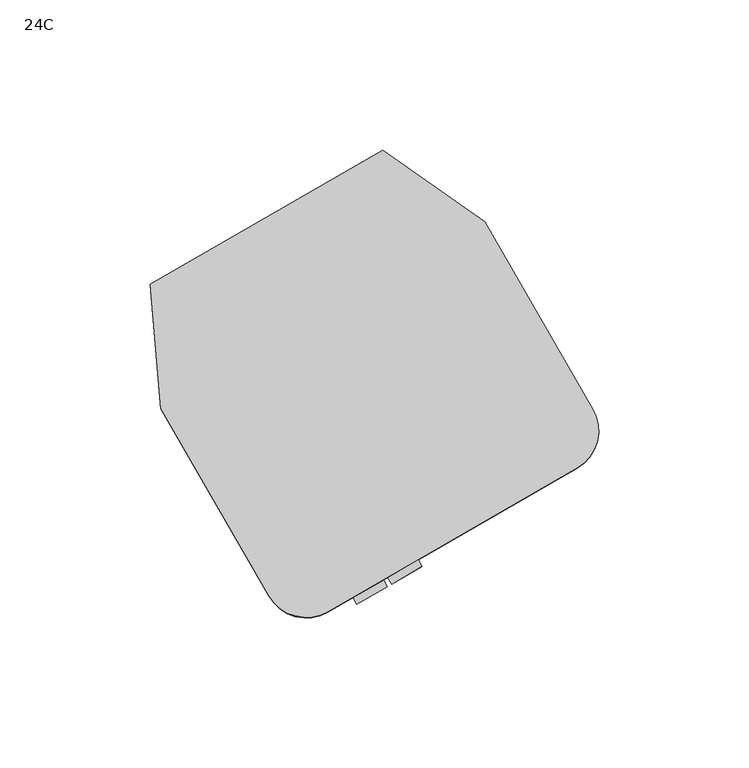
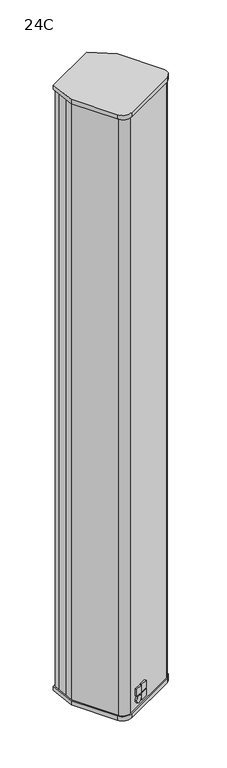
"""IFC4 building model written with IfcOpenShell, lengths in millimetres: proxy geometry, d&b xC-Series 24C Column : 24C."""

import ifcopenshell
import ifcopenshell.guid

model = None  # the IFC model being written
_history = None  # IfcOwnerHistory: only IFC2X3 demands one
_inside = {}  # id of a spatial element -> (the spatial element, [elements in it])
_under = {}  # id of a project, library or spatial element -> (it, [spatial elements below it])
_declared = {}  # id of a project -> (the project, [libraries it declares])
_typed = {}  # id of a type object -> (the type object, [elements of that type])
_made_of = {}  # id of a material, layer set ... -> (it, [elements and type objects made of it])


def new_model(schema):
    """Start an empty IFC model of exactly this schema.

    Asked for "IFC4X3", IfcOpenShell would pick the latest addendum, in which some entities
    have other attributes; the version numbers below select the first issue.
    IFC2X3 requires an IfcOwnerHistory on every rooted entity: one is made here for all.
    """
    global model, _history
    if schema == "IFC4X3":
        model = ifcopenshell.file(schema_version=(4, 3, 0, 0))
    else:
        model = ifcopenshell.file(schema=schema)
    _inside.clear()
    _under.clear()
    _declared.clear()
    _typed.clear()
    _made_of.clear()
    _history = None
    if model.schema == "IFC2X3":
        org = make("IfcOrganization", Name="unknown")
        user = make(
            "IfcPersonAndOrganization",
            ThePerson=make("IfcPerson", FamilyName="unknown"),
            TheOrganization=org,
        )
        app = make(
            "IfcApplication",
            ApplicationDeveloper=org,
            Version="unknown",
            ApplicationFullName="unknown",
            ApplicationIdentifier="unknown",
        )
        _history = make(
            "IfcOwnerHistory",
            OwningUser=user,
            OwningApplication=app,
            ChangeAction="ADDED",
            CreationDate=0,
        )
    return model


def make(cls, **values):
    """One entity of the class cls with the attributes given. An attribute that is None is left unset."""
    return model.create_entity(
        cls, **{name: value for name, value in values.items() if value is not None}
    )


def rooted(cls, **values):
    """An entity with a GlobalId (a new one), such as an element, a storey or a relation."""
    return make(cls, GlobalId=ifcopenshell.guid.new(), OwnerHistory=_history, **values)


def si_unit(unit_type, name, prefix=None):
    """IfcSIUnit, for example si_unit("LENGTHUNIT", "METRE", prefix="MILLI")."""
    return make("IfcSIUnit", UnitType=unit_type, Prefix=prefix, Name=name)


def assignment(units):
    """IfcUnitAssignment: the units of a project."""
    return None if units is None else make("IfcUnitAssignment", Units=units)


def point(xyz):
    """IfcCartesianPoint."""
    return None if xyz is None else make("IfcCartesianPoint", Coordinates=xyz)


def direction(xyz):
    """IfcDirection."""
    return None if xyz is None else make("IfcDirection", DirectionRatios=xyz)


def frame(location, z_axis=None, x_axis=None):
    """IfcAxis2Placement3D, a coordinate frame: its origin and axes. An axis left out is left unset."""
    return make(
        "IfcAxis2Placement3D",
        Location=point(location),
        Axis=direction(z_axis),
        RefDirection=direction(x_axis),
    )


def frame_2d(location, x_axis=None):
    """IfcAxis2Placement2D, a coordinate frame in the plane: its origin and x axis."""
    return make(
        "IfcAxis2Placement2D", Location=point(location), RefDirection=direction(x_axis)
    )


def origin():
    """The frame at (0, 0, 0) with its axes left unset."""
    return frame((0.0, 0.0, 0.0))


def place(relative_to, where):
    """IfcLocalPlacement: puts the frame where relative to a parent placement (None: the world)."""
    return make(
        "IfcLocalPlacement", PlacementRelTo=relative_to, RelativePlacement=where
    )


def context(
    kind, dimensions, precision=None, world=None, true_north=None, identifier=None
):
    """IfcGeometricRepresentationContext, for example the 3D "Model" context."""
    return make(
        "IfcGeometricRepresentationContext",
        ContextIdentifier=identifier,
        ContextType=kind,
        CoordinateSpaceDimension=dimensions,
        Precision=precision,
        WorldCoordinateSystem=world,
        TrueNorth=true_north,
    )


def project(units=None, contexts=None):
    """IfcProject with its units and contexts."""
    return rooted(
        "IfcProject",
        Name="project",
        RepresentationContexts=contexts,
        UnitsInContext=assignment(units),
    )


def spatial(cls, under=None, at=None, **own):
    """A site, building, storey or space (cls), placed at a placement, below another one or the project."""
    s = rooted(cls, ObjectPlacement=at, **own)
    if under is not None:
        _under.setdefault(under.id(), (under, []))[1].append(s)
    return s


def polyline(points):
    """IfcPolyline through the points."""
    return make("IfcPolyline", Points=[point(p) for p in points])


def circle_curve(where, radius):
    """IfcCircle in the frame where."""
    return make("IfcCircle", Position=where, Radius=radius)


def trimmed(basis, trim1, trim2, sense, master):
    """IfcTrimmedCurve: the piece of a basis curve between two trims."""
    return make(
        "IfcTrimmedCurve",
        BasisCurve=basis,
        Trim1=trim1,
        Trim2=trim2,
        SenseAgreement=sense,
        MasterRepresentation=master,
    )


def segment(curve, same_sense, transition):
    """IfcCompositeCurveSegment."""
    return make(
        "IfcCompositeCurveSegment",
        Transition=transition,
        SameSense=same_sense,
        ParentCurve=curve,
    )


def composite_curve(segments, self_intersect=None):
    """IfcCompositeCurve: segments joined end to end."""
    return make("IfcCompositeCurve", Segments=segments, SelfIntersect=self_intersect)


def outline(outer, holes=None, kind="AREA"):
    """IfcArbitraryClosedProfileDef: a profile drawn as a closed curve; with holes, ...WithVoids."""
    if holes is None:
        return make("IfcArbitraryClosedProfileDef", ProfileType=kind, OuterCurve=outer)
    return make(
        "IfcArbitraryProfileDefWithVoids",
        ProfileType=kind,
        OuterCurve=outer,
        InnerCurves=holes,
    )


def extrude(swept, where, along, depth):
    """IfcExtrudedAreaSolid: the profile swept, set in the frame where, extruded along a direction by depth."""
    return make(
        "IfcExtrudedAreaSolid",
        SweptArea=swept,
        Position=where,
        ExtrudedDirection=direction(along),
        Depth=depth,
    )


def shape(context_of_items, identifier, shape_type, items):
    """IfcShapeRepresentation: the items that make up one representation, for example the "Body"."""
    return make(
        "IfcShapeRepresentation",
        ContextOfItems=context_of_items,
        RepresentationIdentifier=identifier,
        RepresentationType=shape_type,
        Items=items,
    )


def source(mapping_origin, context_of_items, identifier, shape_type, items):
    """IfcRepresentationMap: a shape defined once, which mapped items show again and again."""
    return make(
        "IfcRepresentationMap",
        MappingOrigin=mapping_origin,
        MappedRepresentation=shape(context_of_items, identifier, shape_type, items),
    )


def transform(
    local_origin,
    x_axis=None,
    y_axis=None,
    z_axis=None,
    scale=None,
    scale2=None,
    scale3=None,
    uniform=True,
):
    """IfcCartesianTransformationOperator3D, or its non-uniform kind. x_axis, y_axis, z_axis: its Axis1, 2, 3."""
    if uniform:
        return make(
            "IfcCartesianTransformationOperator3D",
            Axis1=direction(x_axis),
            Axis2=direction(y_axis),
            LocalOrigin=point(local_origin),
            Scale=scale,
            Axis3=direction(z_axis),
        )
    return make(
        "IfcCartesianTransformationOperator3DnonUniform",
        Axis1=direction(x_axis),
        Axis2=direction(y_axis),
        LocalOrigin=point(local_origin),
        Scale=scale,
        Axis3=direction(z_axis),
        Scale2=scale2,
        Scale3=scale3,
    )


def mapped(mapping_source, mapping_target):
    """IfcMappedItem: shows the shape of a source again, moved by a transform."""
    return make(
        "IfcMappedItem", MappingSource=mapping_source, MappingTarget=mapping_target
    )


def made_of(thing, what):
    """Note that an element or type object is made of a material, layer set ...; save() writes the relation."""
    if what is not None:
        _made_of.setdefault(what.id(), (what, []))[1].append(thing)
    return thing


def element(
    cls,
    number,
    at=None,
    inside=None,
    cuts=None,
    type_object=None,
    material=None,
    context=None,
    identifier="Body",
    shape_type=None,
    held_by="IfcProductDefinitionShape",
    body=None,
    shapes=None,
    **own,
):
    """One element of the class cls, such as IfcWall. Its Tag is "e" and its number.

    at: its placement. inside: the storey or other place that contains it. cuts: it is an
    opening in that element (IfcRelVoidsElement). A single representation is given by context,
    identifier, shape_type and body (its items); several are given by shapes. held_by: the class
    of the entity that holds the representations. save() writes the other relations.
    """
    e = rooted(cls, Tag="e%d" % number, ObjectPlacement=at, **own)
    if body is not None:
        shapes = [shape(context, identifier, shape_type, body)]
    if shapes is not None:
        e.Representation = make(held_by, Representations=shapes)
    if inside is not None:
        _inside.setdefault(inside.id(), (inside, []))[1].append(e)
    if cuts is not None:
        rooted(
            "IfcRelVoidsElement", RelatingBuildingElement=cuts, RelatedOpeningElement=e
        )
    if type_object is not None:
        _typed.setdefault(type_object.id(), (type_object, []))[1].append(e)
    return made_of(e, material)


def aggregate(whole, parts):
    """IfcRelAggregates: a whole, such as a stair, and the parts it consists of."""
    return rooted("IfcRelAggregates", RelatingObject=whole, RelatedObjects=parts)


def save(model, path):
    """Write the relations noted so far, then the file.

    IfcRelAggregates (storeys below a building ...), IfcRelContainedInSpatialStructure (elements
    in a storey), IfcRelDefinesByType, IfcRelAssociatesMaterial and IfcRelDeclares: one each for
    every whole, place, type object, material and project.
    """
    for whole, parts in _under.values():
        aggregate(whole, parts)
    for where, things in _inside.values():
        rooted(
            "IfcRelContainedInSpatialStructure",
            RelatedElements=things,
            RelatingStructure=where,
        )
    for kind, things in _typed.values():
        rooted("IfcRelDefinesByType", RelatedObjects=things, RelatingType=kind)
    for what, things in _made_of.values():
        rooted("IfcRelAssociatesMaterial", RelatedObjects=things, RelatingMaterial=what)
    for by, libraries in _declared.values():
        rooted("IfcRelDeclares", RelatingContext=by, RelatedDefinitions=libraries)
    model.write(path)


def plane_surface(at):
    """IfcPlane: the flat surface through the origin of the frame at, square to its z axis."""
    return make("IfcPlane", Position=at)


def cylinder_surface(at, radius):
    """IfcCylindricalSurface: all points at the distance radius from the z axis of the frame at."""
    return make("IfcCylindricalSurface", Position=at, Radius=radius)


def revolved_surface(curve, axis_point, axis_direction):
    """IfcSurfaceOfRevolution: the curve turned about the line through axis_point along axis_direction."""
    return make(
        "IfcSurfaceOfRevolution",
        SweptCurve=make("IfcArbitraryOpenProfileDef", ProfileType="CURVE", Curve=curve),
        AxisPosition=make("IfcAxis1Placement", Location=point(axis_point), Axis=direction(axis_direction)),
    )


def advanced_brep(points, edges, surfaces, faces):
    """IfcAdvancedBrep: a solid bounded by faces that lie on surfaces and meet in shared edges.

    An edge is (start, end): straight between two places in points (the first is 0);
    or (start, end, curve); or (start, end, curve, False) where it runs against its curve.
    A face is (place in surfaces, loops), or (place, loops, False) where it looks against
    its surface's normal. A loop lists edges by number (the first is 1), with a minus sign
    where the edge is run from its end to its start. The first loop is the outer one.
    """
    corners = [point(p) for p in points]
    vertices = [make("IfcVertexPoint", VertexGeometry=c) for c in corners]
    made = []
    for start, end, *more in edges:
        made.append(
            make(
                "IfcEdgeCurve",
                EdgeStart=vertices[start],
                EdgeEnd=vertices[end],
                EdgeGeometry=more[0] if more else make("IfcPolyline", Points=[corners[start], corners[end]]),
                SameSense=more[1] if len(more) > 1 else True,
            )
        )
    hull = []
    for where, loops, *sense in faces:
        bounds = []
        for j, loop in enumerate(loops):
            ring = [make("IfcOrientedEdge", EdgeElement=made[abs(k) - 1], Orientation=k > 0) for k in loop]
            bounds.append(
                make(
                    "IfcFaceOuterBound" if j == 0 else "IfcFaceBound",
                    Bound=make("IfcEdgeLoop", EdgeList=ring),
                    Orientation=True,
                )
            )
        hull.append(make("IfcAdvancedFace", Bounds=bounds, FaceSurface=surfaces[where], SameSense=sense[0] if sense else True))
    return make("IfcAdvancedBrep", Outer=make("IfcClosedShell", CfsFaces=hull))


def proxy_24c_c8f8758b(model_context):
    return source(origin(), model_context, "Body", "SolidModel", [
        extrude(outline(polyline([(14.3922526, 66.1949436), (15.8261937, 68.2428237), (28.1021442, 59.6471107), (26.6682031, 57.5992305), (14.3922526, 66.1949436)])), frame((0.0, 0.0, -493.0), z_axis=(0.0, 0.0, 1.0), x_axis=(1.0, 0.0, 0.0)), (0.0, 0.0, 1.0), 986.0),
        extrude(outline(polyline([(-64.5226291, 20.6334154), (-63.2164984, 5.7042739), (-65.7069852, 5.4863846), (-67.0131158, 20.4155261), (-64.5226291, 20.6334154)])), frame((0.0, 0.0, -493.0), z_axis=(0.0, 0.0, 1.0), x_axis=(1.0, 0.0, 0.0)), (0.0, 0.0, 1.0), 986.0),
        advanced_brep(
        [(-57.8811142, 36.1530306, 493.0), (-67.8846732, 30.3774731, 493.0), (-67.0131158, 20.4155261, 493.0), (-64.5226291, 20.6334154, 493.0), (-63.2164984, 5.7042739, 493.0), (-65.7069852, 5.4863846, 493.0), (-64.399649, -9.4565359, 493.0), (-28.4134709, -71.7864248, 493.0), (-11.6279311, -76.2840966, 493.0), (71.8779311, -28.0719646, 493.0), (76.3756029, -11.2864248, 493.0), (40.3894248, 51.0434641, 493.0), (28.1021442, 59.6471107, 493.0), (26.6682031, 57.5992305, 493.0), (14.3922526, 66.1949436, 493.0), (15.8261937, 68.2428237, 493.0), (7.6346732, 73.9785881, 493.0), (-2.3688858, 68.2030306, 493.0), (-1.2688854, 66.297774, 493.0), (2.3684216, 68.3977742, 493.0), (3.7456541, 66.0123374, 493.0), (2.2648858, 60.486035, 493.0), (-5.0135963, 56.2838014, 493.0), (-10.5459982, 57.766204, 493.0), (-11.9209982, 60.1477739, 493.0), (-8.2836912, 62.247774, 493.0), (-9.3836916, 64.1530306, 493.0), (-17.1346189, 59.6780306, 493.0), (-12.1346189, 51.0177765, 493.0), (-38.1153811, 36.0177765, 493.0), (-43.1153811, 44.6780306, 493.0), (-50.8663084, 40.2030306, 493.0), (-49.766308, 38.297774, 493.0), (-46.1290011, 40.3977742, 493.0), (-44.7540011, 38.0162043, 493.0), (-46.2364037, 32.4838025, 493.0), (-53.5148858, 28.2815688, 493.0), (-59.0411882, 29.7623371, 493.0), (-60.4184208, 32.1477739, 493.0), (-56.7811138, 34.247774, 493.0), (-57.8811142, 36.1530306, -493.0), (-56.7811138, 34.247774, -493.0), (-60.4184208, 32.1477739, -493.0), (-59.0411882, 29.7623371, -493.0), (-53.5148858, 28.2815688, -493.0), (-46.2364037, 32.4838025, -493.0), (-44.7540011, 38.0162043, -493.0), (-46.1290011, 40.3977742, -493.0), (-49.766308, 38.297774, -493.0), (-50.8663084, 40.2030306, -493.0), (-9.3836916, 64.1530306, -493.0), (-8.2836912, 62.247774, -493.0), (-11.9209982, 60.1477739, -493.0), (-10.5459982, 57.766204, -493.0), (-5.0135963, 56.2838014, -493.0), (2.2648858, 60.486035, -493.0), (3.7456541, 66.0123374, -493.0), (2.3684216, 68.3977742, -493.0), (-1.2688854, 66.297774, -493.0), (-2.3688858, 68.2030306, -493.0), (7.6346732, 73.9785881, -493.0), (15.8261937, 68.2428237, -493.0), (14.3922526, 66.1949436, -493.0), (26.6682031, 57.5992305, -493.0), (28.1021442, 59.6471107, -493.0), (40.3894248, 51.0434641, -493.0), (76.3756029, -11.2864248, -493.0), (71.8779311, -28.0719646, -493.0), (-11.6279311, -76.2840966, -493.0), (-28.4134709, -71.7864248, -493.0), (-64.399649, -9.4565359, -493.0), (-65.7069852, 5.4863846, -493.0), (-63.2164984, 5.7042739, -493.0), (-64.5226291, 20.6334154, -493.0), (-67.0131158, 20.4155261, -493.0), (-67.8846732, 30.3774731, -493.0), (-43.1153811, 44.6780306, 461.5), (-40.9503175, 45.9280306, 459.0), (-19.2996825, 58.4280306, 459.0), (-17.1346189, 59.6780306, 461.5), (-33.0478357, 50.4905306, -263.5), (-33.0478357, 50.4905306, -365.0), (-27.2021643, 53.8655306, -365.0), (-27.2021643, 53.8655306, -263.5), (-12.1346189, 51.0177765, 461.5), (-14.2996825, 49.7677765, 459.0), (-35.9503175, 37.2677765, 459.0), (-38.1153811, 36.0177765, 461.5), (-31.4228357, 47.675948, -365.0), (-31.4228357, 47.675948, -263.5), (-25.5771643, 51.050948, -263.5), (-25.5771643, 51.050948, -365.0)],
        [
            (0, 1),
            (1, 2),
            (2, 3),
            (3, 4),
            (4, 5),
            (5, 6),
            (6, 7),
            (7, 8, circle_curve(frame((-17.7718651, -65.6424908, 493.0), z_axis=(0.0, 0.0, 1.0), x_axis=(-0.8660254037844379, -0.5000000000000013, 0.0)), 12.287868)),
            (8, 9),
            (9, 10, circle_curve(frame((65.7339971, -17.4303587, 493.0), z_axis=(0.0, 0.0, 1.0), x_axis=(-0.8660254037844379, -0.5000000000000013, 0.0)), 12.287868)),
            (10, 11),
            (11, 12),
            (12, 13),
            (13, 14),
            (14, 15),
            (15, 16),
            (16, 17),
            (17, 18),
            (18, 19),
            (19, 20),
            (20, 21),
            (21, 22),
            (22, 23),
            (23, 24),
            (24, 25),
            (25, 26),
            (26, 27),
            (27, 28),
            (28, 29),
            (29, 30),
            (30, 31),
            (31, 32),
            (32, 33),
            (33, 34),
            (34, 35),
            (35, 36),
            (36, 37),
            (37, 38),
            (38, 39),
            (39, 0),
            (40, 41),
            (41, 42),
            (42, 43),
            (43, 44),
            (44, 45),
            (45, 46),
            (46, 47),
            (47, 48),
            (48, 49),
            (49, 50),
            (50, 51),
            (51, 52),
            (52, 53),
            (53, 54),
            (54, 55),
            (55, 56),
            (56, 57),
            (57, 58),
            (58, 59),
            (59, 60),
            (60, 61),
            (61, 62),
            (62, 63),
            (63, 64),
            (64, 65),
            (65, 66),
            (66, 67, circle_curve(frame((65.7339971, -17.4303587, -493.0), z_axis=(0.0, 0.0, -1.0), x_axis=(-0.8660254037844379, -0.5000000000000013, 0.0)), 12.287868)),
            (67, 68),
            (68, 69, circle_curve(frame((-17.7718651, -65.6424908, -493.0), z_axis=(0.0, 0.0, -1.0), x_axis=(-0.8660254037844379, -0.5000000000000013, 0.0)), 12.287868)),
            (69, 70),
            (70, 71),
            (71, 72),
            (72, 73),
            (73, 74),
            (74, 75),
            (75, 40),
            (0, 40),
            (75, 1),
            (6, 70),
            (69, 7),
            (68, 8),
            (67, 9),
            (66, 10),
            (65, 11),
            (64, 12),
            (16, 60),
            (59, 17),
            (58, 18),
            (57, 19),
            (56, 20),
            (55, 21),
            (54, 22),
            (53, 23),
            (52, 24),
            (51, 25),
            (50, 26),
            (49, 31),
            (30, 76),
            (76, 77, circle_curve(frame((-40.9503175, 45.9280306, 461.5), z_axis=(0.49999999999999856, -0.8660254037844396, 0.0), x_axis=(-0.8660254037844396, -0.49999999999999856, 0.0)), 2.5)),
            (77, 78),
            (78, 79, circle_curve(frame((-19.2996825, 58.4280306, 461.5), z_axis=(0.49999999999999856, -0.8660254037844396, 0.0), x_axis=(-0.8660254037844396, -0.49999999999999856, 0.0)), 2.5)),
            (79, 27),
            (80, 81),
            (81, 82, circle_curve(frame((-30.125, 52.1780306, -365.0), z_axis=(0.49999999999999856, -0.8660254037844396, 0.0), x_axis=(-0.8660254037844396, -0.49999999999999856, 0.0)), 3.375)),
            (82, 83),
            (83, 80, circle_curve(frame((-30.125, 52.1780306, -263.5), z_axis=(0.49999999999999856, -0.8660254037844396, 0.0), x_axis=(-0.8660254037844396, -0.49999999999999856, 0.0)), 3.375)),
            (48, 32),
            (47, 33),
            (46, 34),
            (45, 35),
            (44, 36),
            (43, 37),
            (42, 38),
            (41, 39),
            (84, 85, circle_curve(frame((-14.2996825, 49.7677765, 461.5), z_axis=(-0.49999999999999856, 0.8660254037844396, 0.0), x_axis=(-0.8660254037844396, -0.49999999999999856, 0.0)), 2.5)),
            (85, 86),
            (86, 87, circle_curve(frame((-35.9503175, 37.2677765, 461.5), z_axis=(-0.49999999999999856, 0.8660254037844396, 0.0), x_axis=(-0.8660254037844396, -0.49999999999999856, 0.0)), 2.5)),
            (87, 29),
            (28, 84),
            (84, 79),
            (78, 85),
            (77, 86),
            (76, 87),
            (88, 89),
            (89, 90, circle_curve(frame((-28.5, 49.363448, -263.5), z_axis=(-0.49999999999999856, 0.8660254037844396, 0.0), x_axis=(-0.8660254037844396, -0.49999999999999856, 0.0)), 3.375)),
            (90, 91),
            (91, 88, circle_curve(frame((-28.5, 49.363448, -365.0), z_axis=(-0.49999999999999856, 0.8660254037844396, 0.0), x_axis=(-0.8660254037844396, -0.49999999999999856, 0.0)), 3.375)),
            (88, 81),
            (80, 89),
            (83, 90),
            (82, 91),
            (63, 13),
            (62, 14),
            (61, 15),
            (74, 2),
            (73, 3),
            (72, 4),
            (71, 5),
        ],
        [
            plane_surface(frame((-66.5053757, 31.1738109, 493.0), z_axis=(0.0, 0.0, 1.0), x_axis=(-0.8660254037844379, -0.5000000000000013, 0.0))),
            plane_surface(frame((-66.5053757, 31.1738109, -493.0), z_axis=(0.0, 0.0, -1.0), x_axis=(0.8660254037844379, 0.5000000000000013, 0.0))),
            plane_surface(frame((-57.8811142, 36.1530306, 493.0), z_axis=(-0.5000000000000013, 0.8660254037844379, 0.0), x_axis=(0.0, 0.0, -1.0))),
            plane_surface(frame((-64.399649, -9.4565359, 493.0), z_axis=(-0.8660254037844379, -0.5000000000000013, 0.0), x_axis=(0.0, 0.0, -1.0))),
            cylinder_surface(frame((-17.7718651, -65.6424908, -493.0), z_axis=(0.0, 0.0, 1.0), x_axis=(-0.8660254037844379, -0.5000000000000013, 0.0)), 12.287868),
            plane_surface(frame((-11.6279311, -76.2840966, 493.0), z_axis=(0.5000000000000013, -0.8660254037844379, 0.0), x_axis=(0.0, 0.0, -1.0))),
            cylinder_surface(frame((65.7339971, -17.4303587, -493.0), z_axis=(0.0, 0.0, 1.0), x_axis=(-0.8660254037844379, -0.5000000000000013, 0.0)), 12.287868),
            plane_surface(frame((76.3756029, -11.2864248, 493.0), z_axis=(0.8660254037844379, 0.5000000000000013, 0.0), x_axis=(0.0, 0.0, -1.0))),
            plane_surface(frame((40.3894248, 51.0434641, 493.0), z_axis=(0.5735764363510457, 0.8191520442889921, 0.0), x_axis=(0.0, 0.0, -1.0))),
            plane_surface(frame((7.6346732, 73.9785881, 493.0), z_axis=(-0.5000000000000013, 0.8660254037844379, 0.0), x_axis=(0.0, 0.0, -1.0))),
            plane_surface(frame((-2.3688858, 68.2030306, 493.0), z_axis=(-0.8660254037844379, -0.5000000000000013, 0.0), x_axis=(0.0, 0.0, -1.0))),
            plane_surface(frame((-1.2688854, 66.297774, 493.0), z_axis=(0.5000000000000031, -0.8660254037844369, 0.0), x_axis=(0.0, 0.0, -1.0))),
            plane_surface(frame((2.3684216, 68.3977742, 493.0), z_axis=(-0.8660254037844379, -0.5000000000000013, 0.0), x_axis=(0.0, 0.0, -1.0))),
            plane_surface(frame((3.7456541, 66.0123374, 493.0), z_axis=(-0.9659258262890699, 0.25881904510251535, 0.0), x_axis=(0.0, 0.0, -1.0))),
            plane_surface(frame((2.2648858, 60.486035, 493.0), z_axis=(-0.5000000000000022, 0.8660254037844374, 0.0), x_axis=(0.0, 0.0, -1.0))),
            plane_surface(frame((-5.0135963, 56.2838014, 493.0), z_axis=(0.2588190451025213, 0.9659258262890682, 0.0), x_axis=(0.0, 0.0, -1.0))),
            plane_surface(frame((-10.5459982, 57.766204, 493.0), z_axis=(0.8660254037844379, 0.5000000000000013, 0.0), x_axis=(0.0, 0.0, -1.0))),
            plane_surface(frame((-11.9209982, 60.1477739, 493.0), z_axis=(0.5000000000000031, -0.8660254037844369, 0.0), x_axis=(0.0, 0.0, -1.0))),
            plane_surface(frame((-8.2836912, 62.247774, 493.0), z_axis=(0.8660254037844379, 0.5000000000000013, 0.0), x_axis=(0.0, 0.0, -1.0))),
            plane_surface(frame((-9.3836916, 64.1530306, 493.0), z_axis=(-0.5000000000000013, 0.8660254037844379, 0.0), x_axis=(0.0, 0.0, -1.0))),
            plane_surface(frame((-50.8663084, 40.2030306, 493.0), z_axis=(-0.8660254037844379, -0.5000000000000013, 0.0), x_axis=(0.0, 0.0, -1.0))),
            plane_surface(frame((-49.766308, 38.297774, 493.0), z_axis=(0.4999999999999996, -0.8660254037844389, 0.0), x_axis=(0.0, 0.0, -1.0))),
            plane_surface(frame((-46.1290011, 40.3977742, 493.0), z_axis=(-0.8660254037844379, -0.5000000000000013, 0.0), x_axis=(0.0, 0.0, -1.0))),
            plane_surface(frame((-44.7540011, 38.0162043, 493.0), z_axis=(-0.9659258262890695, 0.25881904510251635, 0.0), x_axis=(0.0, 0.0, -1.0))),
            plane_surface(frame((-46.2364037, 32.4838025, 493.0), z_axis=(-0.4999999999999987, 0.8660254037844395, 0.0), x_axis=(0.0, 0.0, -1.0))),
            plane_surface(frame((-53.5148858, 28.2815688, 493.0), z_axis=(0.2588190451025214, 0.9659258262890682, 0.0), x_axis=(0.0, 0.0, -1.0))),
            plane_surface(frame((-59.0411882, 29.7623371, 493.0), z_axis=(0.8660254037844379, 0.5000000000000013, 0.0), x_axis=(0.0, 0.0, -1.0))),
            plane_surface(frame((-60.4184208, 32.1477739, 493.0), z_axis=(0.4999999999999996, -0.8660254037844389, 0.0), x_axis=(0.0, 0.0, -1.0))),
            plane_surface(frame((-56.7811138, 34.247774, 493.0), z_axis=(0.8660254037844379, 0.5000000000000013, 0.0), x_axis=(0.0, 0.0, -1.0))),
            plane_surface(frame((-16.464746, 48.5177765, 461.5), z_axis=(-0.49999999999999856, 0.8660254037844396, 0.0), x_axis=(0.0, 0.0, -1.0))),
            revolved_surface(polyline([(-21.464746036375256, 57.178030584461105, 461.5), (-16.464745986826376, 48.5177764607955, 461.5)]), (-14.2996825, 49.7677765, 461.5), (-0.49999999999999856, 0.8660254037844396, 0.0)),
            plane_surface(frame((-20.1746825, 59.943575, 459.0), z_axis=(0.0, 0.0, 1.0), x_axis=(0.49999999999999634, -0.8660254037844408, 0.0))),
            revolved_surface(polyline([(-43.11538105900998, 44.6780306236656, 461.5), (-38.115381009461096, 36.0177765, 461.5)]), (-35.9503175, 37.2677765, 461.5), (-0.49999999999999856, 0.8660254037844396, 0.0)),
            plane_surface(frame((-43.9903811, 46.193575, 461.5), z_axis=(0.8660254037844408, 0.49999999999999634, 0.0), x_axis=(0.49999999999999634, -0.8660254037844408, 0.0))),
            plane_surface(frame((-18.0096189, 61.193575, 493.0), z_axis=(-0.8660254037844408, -0.49999999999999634, 0.0), x_axis=(0.49999999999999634, -0.8660254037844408, 0.0))),
            plane_surface(frame((-31.4228357, 47.675948, -286.8896769), z_axis=(-0.49999999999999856, 0.8660254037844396, 0.0), x_axis=(0.0, 0.0, -1.0))),
            plane_surface(frame((-33.9228357, 52.006075, -365.0), z_axis=(0.8660254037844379, 0.5000000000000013, 0.0), x_axis=(0.5000000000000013, -0.8660254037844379, 0.0))),
            revolved_surface(polyline([(-33.047835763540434, 50.49053060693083, -263.5), (-31.42283572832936, 47.675947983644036, -263.5)]), (-28.5, 49.363448, -263.5), (-0.49999999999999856, 0.8660254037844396, 0.0)),
            plane_surface(frame((-28.0771643, 55.381075, -263.5), z_axis=(-0.8660254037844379, -0.5000000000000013, 0.0), x_axis=(0.5000000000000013, -0.8660254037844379, 0.0))),
            revolved_surface(polyline([(-33.047835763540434, 50.49053060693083, -365.0), (-31.42283572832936, 47.675947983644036, -365.0)]), (-28.5, 49.363448, -365.0), (-0.49999999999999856, 0.8660254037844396, 0.0)),
            plane_surface(frame((28.1021442, 59.6471107, 493.0), z_axis=(-0.819152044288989, 0.5735764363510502, 0.0), x_axis=(0.0, 0.0, -1.0))),
            plane_surface(frame((26.6682031, 57.5992305, 493.0), z_axis=(0.5735764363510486, 0.8191520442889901, 0.0), x_axis=(0.0, 0.0, -1.0))),
            plane_surface(frame((14.3922526, 66.1949436, 493.0), z_axis=(0.8191520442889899, -0.5735764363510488, 0.0), x_axis=(0.0, 0.0, -1.0))),
            plane_surface(frame((15.8261937, 68.2428237, 493.0), z_axis=(0.5735764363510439, 0.8191520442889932, 0.0), x_axis=(0.0, 0.0, -1.0))),
            plane_surface(frame((-67.8846732, 30.3774731, 493.0), z_axis=(-0.9961946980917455, -0.08715574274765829, 0.0), x_axis=(0.0, 0.0, -1.0))),
            plane_surface(frame((-67.0131158, 20.4155261, 493.0), z_axis=(0.08715574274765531, -0.9961946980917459, 0.0), x_axis=(0.0, 0.0, -1.0))),
            plane_surface(frame((-64.5226291, 20.6334154, 493.0), z_axis=(-0.996194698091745, -0.08715574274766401, 0.0), x_axis=(0.0, 0.0, -1.0))),
            plane_surface(frame((-63.2164984, 5.7042739, 493.0), z_axis=(-0.08715574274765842, 0.9961946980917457, 0.0), x_axis=(0.0, 0.0, -1.0))),
            plane_surface(frame((-65.7069852, 5.4863846, 493.0), z_axis=(-0.9961946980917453, -0.08715574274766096, 0.0), x_axis=(0.0, 0.0, -1.0))),
        ],
        [
            (0, [[1, 2, 3, 4, 5, 6, 7, 8, 9, 10, 11, 12, 13, 14, 15, 16, 17, 18, 19, 20, 21, 22, 23, 24, 25, 26, 27, 28, 29, 30, 31, 32, 33, 34, 35, 36, 37, 38, 39, 40]]),
            (1, [[41, 42, 43, 44, 45, 46, 47, 48, 49, 50, 51, 52, 53, 54, 55, 56, 57, 58, 59, 60, 61, 62, 63, 64, 65, 66, 67, 68, 69, 70, 71, 72, 73, 74, 75, 76]]),
            (2, [[-1, 77, -76, 78]]),
            (3, [[-7, 79, -70, 80]]),
            (4, [[-8, -80, -69, 81]]),
            (5, [[-9, -81, -68, 82]]),
            (6, [[-10, -82, -67, 83]]),
            (7, [[-11, -83, -66, 84]]),
            (8, [[-12, -84, -65, 85]]),
            (9, [[-17, 86, -60, 87]]),
            (10, [[-18, -87, -59, 88]]),
            (11, [[-19, -88, -58, 89]]),
            (12, [[-20, -89, -57, 90]]),
            (13, [[-21, -90, -56, 91]]),
            (14, [[-22, -91, -55, 92]]),
            (15, [[-23, -92, -54, 93]]),
            (16, [[-24, -93, -53, 94]]),
            (17, [[-25, -94, -52, 95]]),
            (18, [[-26, -95, -51, 96]]),
            (19, [[-50, 97, -31, 98, 99, 100, 101, 102, -27, -96], [103, 104, 105, 106]]),
            (20, [[-32, -97, -49, 107]]),
            (21, [[-33, -107, -48, 108]]),
            (22, [[-34, -108, -47, 109]]),
            (23, [[-35, -109, -46, 110]]),
            (24, [[-36, -110, -45, 111]]),
            (25, [[-37, -111, -44, 112]]),
            (26, [[-38, -112, -43, 113]]),
            (27, [[-39, -113, -42, 114]]),
            (28, [[-40, -114, -41, -77]]),
            (29, [[115, 116, 117, 118, -29, 119]]),
            (30, [[-115, 120, -101, 121]]),
            (31, [[-116, -121, -100, 122]]),
            (32, [[-117, -122, -99, 123]]),
            (33, [[-118, -123, -98, -30]]),
            (34, [[-119, -28, -102, -120]]),
            (35, [[124, 125, 126, 127]]),
            (36, [[-124, 128, -103, 129]]),
            (37, [[-125, -129, -106, 130]]),
            (38, [[-126, -130, -105, 131]]),
            (39, [[-127, -131, -104, -128]]),
            (40, [[-13, -85, -64, 132]]),
            (41, [[-14, -132, -63, 133]]),
            (42, [[-15, -133, -62, 134]]),
            (43, [[-16, -134, -61, -86]]),
            (44, [[-2, -78, -75, 135]]),
            (45, [[-3, -135, -74, 136]]),
            (46, [[-4, -136, -73, 137]]),
            (47, [[-5, -137, -72, 138]]),
            (48, [[-6, -138, -71, -79]]),
        ],
    ),
        extrude(outline(polyline([(-2.0926771, -72.7996411), (8.0109526, -66.9663077), (9.2609526, -69.1313712), (-0.8426771, -74.9647046), (-2.0926771, -72.7996411)])), frame((0.0, 0.0, -469.6666667), z_axis=(0.0, 0.0, 1.0), x_axis=(1.0, 0.0, 0.0)), (0.0, 0.0, 1.0), 11.6666667),
        extrude(outline(polyline([(9.4543283, -66.1329744), (19.557958, -60.2996411), (20.807958, -62.4647046), (10.7043283, -68.2980379), (9.4543283, -66.1329744)])), frame((0.0, 0.0, -469.6666667), z_axis=(0.0, 0.0, 1.0), x_axis=(1.0, 0.0, 0.0)), (0.0, 0.0, 1.0), 11.6666667),
        extrude(outline(polyline([(9.4543283, -66.1329744), (19.557958, -60.2996411), (20.807958, -62.4647046), (10.7043283, -68.2980379), (9.4543283, -66.1329744)])), frame((0.0, 0.0, -483.0), z_axis=(0.0, 0.0, 1.0), x_axis=(1.0, 0.0, 0.0)), (0.0, 0.0, 1.0), 11.6666667),
        extrude(outline(composite_curve([segment(trimmed(circle_curve(frame_2d((-0.9849738, -5.8333333)), 5.8333333), [point((-0.9849738, 0.0))], [point((-0.9849738, -11.6666667))], False, "CARTESIAN"), True, "CONTINUOUS"), segment(trimmed(circle_curve(frame_2d((-0.9849738, -5.8333333)), 5.8333333), [point((-0.9849738, -11.6666667))], [point((-0.9849738, 0.0))], False, "CARTESIAN"), True, "CONTINUOUS")], self_intersect=False)), frame((9.2609526, -69.1313712, -476.1816929), z_axis=(-0.49999999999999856, 0.8660254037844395, 0.0), x_axis=(0.0, 0.0, 1.0)), (0.0, 0.0, 1.0), 2.5),
        extrude(outline(composite_curve([segment(polyline([(7.7251815, 76.051569), (41.7109865, 52.2544522), (77.7850814, -10.227713)]), True, "CONTINUOUS"), segment(trimmed(circle_curve(frame_2d((65.4442194, -17.352713)), 14.25), [point((77.7850814, -10.227713))], [point((72.5692194, -29.693575))], False, "CARTESIAN"), True, "CONTINUOUS"), segment(polyline([(72.5692194, -29.693575), (-10.5692194, -77.693575)]), True, "CONTINUOUS"), segment(trimmed(circle_curve(frame_2d((-17.6942194, -65.352713)), 14.25), [point((-10.5692194, -77.693575))], [point((-30.0350814, -72.477713))], False, "CARTESIAN"), True, "CONTINUOUS"), segment(polyline([(-30.0350814, -72.477713), (-66.1091763, -9.9955478), (-69.7251815, 31.335581), (7.7251815, 76.051569)]), True, "CONTINUOUS")], self_intersect=False)), frame((0.0, 0.0, -500.0), z_axis=(0.0, 0.0, 1.0), x_axis=(1.0, 0.0, 0.0)), (0.0, 0.0, 1.0), 7.0),
        extrude(outline(composite_curve([segment(polyline([(7.7251815, 76.051569), (41.7109865, 52.2544522), (77.7850814, -10.227713)]), True, "CONTINUOUS"), segment(trimmed(circle_curve(frame_2d((65.4442194, -17.352713)), 14.25), [point((77.7850814, -10.227713))], [point((72.5692194, -29.693575))], False, "CARTESIAN"), True, "CONTINUOUS"), segment(polyline([(72.5692194, -29.693575), (-10.5692194, -77.693575)]), True, "CONTINUOUS"), segment(trimmed(circle_curve(frame_2d((-17.6942194, -65.352713)), 14.25), [point((-10.5692194, -77.693575))], [point((-30.0350814, -72.477713))], False, "CARTESIAN"), True, "CONTINUOUS"), segment(polyline([(-30.0350814, -72.477713), (-66.1091763, -9.9955478), (-69.7251815, 31.335581), (7.7251815, 76.051569)]), True, "CONTINUOUS")], self_intersect=False)), frame((0.0, 0.0, 493.0), z_axis=(0.0, 0.0, 1.0), x_axis=(1.0, 0.0, 0.0)), (0.0, 0.0, 1.0), 7.0),
    ])


if __name__ == "__main__":
    model = new_model("IFC4")
    model_context = context("Model", 3, world=origin())
    ifc_project = project(units=[si_unit("LENGTHUNIT", "METRE", prefix="MILLI")], contexts=[model_context])
    site = spatial("IfcSite", under=ifc_project)
    building = spatial("IfcBuilding", under=site)
    placement = place(None, origin())
    proxy_24c_shape = proxy_24c_c8f8758b(model_context)
    element("IfcBuildingElementProxy", 1, Name="d&b xC-Series 24C Column : 24C", ObjectType="d&b xC-Series 24C Column : 24C", at=placement, inside=building, context=model_context, shape_type="MappedRepresentation", body=[
        mapped(proxy_24c_shape, transform((0.0, 0.0, 0.0), x_axis=(1.0, 0.0, 0.0), y_axis=(0.0, 1.0, 0.0), z_axis=(0.0, 0.0, 1.0))),
    ])
    save(model, "model.ifc")
